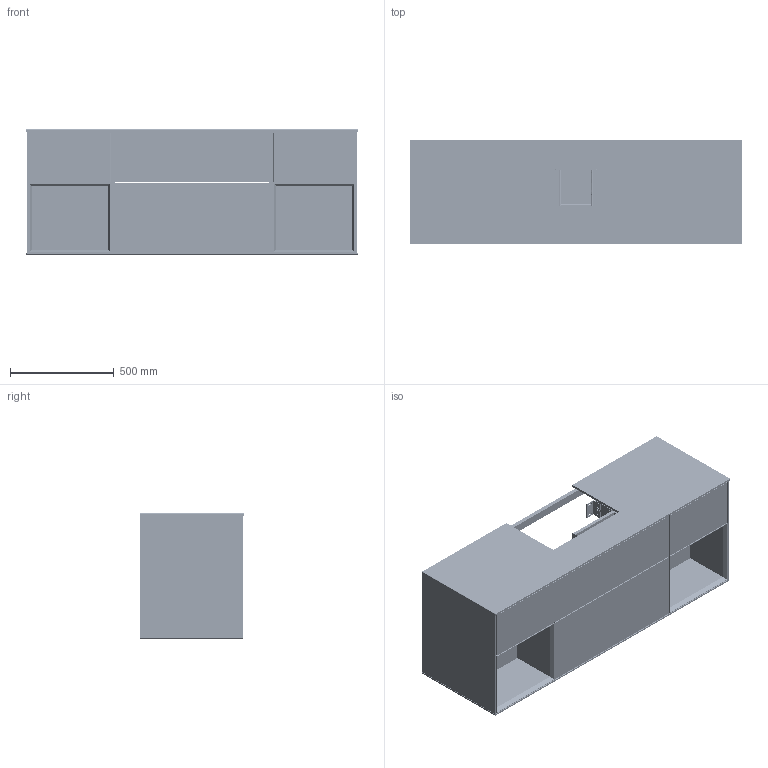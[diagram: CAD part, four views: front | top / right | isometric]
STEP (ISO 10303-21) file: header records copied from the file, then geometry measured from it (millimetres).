
FILE_DESCRIPTION((' '),'2;1');
FILE_NAME('M:\DWG\MÖBEL\3D-Zeichnungen Typen\Finion\STP\Finion_F21ZYYXX_3D.stp','2017-03-22T14:53:51',(' '),(' '),' ','ACIS',' ');
FILE_SCHEMA(('CONFIG_CONTROL_DESIGN'));
Length unit declared in the file: millimetre
Products named in the file (193): M:\DWG\MÖBEL\3D-Zeichnungen Typen\Finion\STP\Finion_F21ZYYXX_3D.stp; Körper1; Körper2; Körper3; Körper4; Körper5; Körper6; Körper7; Körper8; Körper9; Körper10; Körper11; Körper12; Körper13; Körper14; Körper15; Körper16; Körper17; Körper18; Körper19; Körper20; Körper21; Körper22; Körper23; Körper24; Körper25; Körper26; Körper27; Körper28; Körper29; Körper30; Körper31; Körper32; Körper33; Körper34; Körper35; Körper36; Körper37; Körper38; Körper39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
Assembly tree (192 placements, depth 2):
  M:\DWG\MÖBEL\3D-Zeichnungen Typen\Finion\STP\Finion_F21ZYYXX_3D.stp
    Körper1
    Körper2
    Körper3
    Körper4
    Körper5
    Körper6
    Körper7
    Körper8
    Körper9
    Körper10
    Körper11
    Körper12
    Körper13
    Körper14
    Körper15
    Körper16
    Körper17
    Körper18
    Körper19
    Körper20
    Körper21
    Körper22
    Körper23
    Körper24
    Körper25
    Körper26
    Körper27
    Körper28
    Körper29
    Körper30
    Körper31
    Körper32
    Körper33
    Körper34
    Körper35
    Körper36
    Körper37
    Körper38
    Körper39
    Körper40
    Körper41
    Körper42
    Körper43
    Körper44
    Körper45
    Körper46
    Körper47
    Körper48
    Körper49
    Körper50
    Körper51
    Körper52
    Körper53
    Körper54
    Körper55
    Körper56
    Körper57
    Körper58
    Körper59
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Bounding box: 1600 x 501 x 603 mm (x, y, z)
Volume: 88674705.1 mm3; surface area: 17542561.2 mm2
Topology: 239 solids, 239 shells, 13145 faces, 34933 edges, 22904 vertices
Faces by surface type: bspline 5434, plane 4670, cylinder 2664, cone 289, torus 58, sphere 30
Full cylindrical faces by diameter (mm): 2.086 x6, 2.5 x2, 3 x33, 3.2 x2, 3.5 x2, 4 x12, 5 x7, 6 x10, 7 x3, 8 x13, 8.02 x8, 10 x23, 12 x1, 30 x3
Entity records: 532568 total; most frequent: CARTESIAN_POINT 190032, ORIENTED_EDGE 68674, DIRECTION 59592, EDGE_CURVE 34337, VECTOR 23190, LINE 23190, VERTEX_POINT 22785, AXIS2_PLACEMENT_3D 18201
